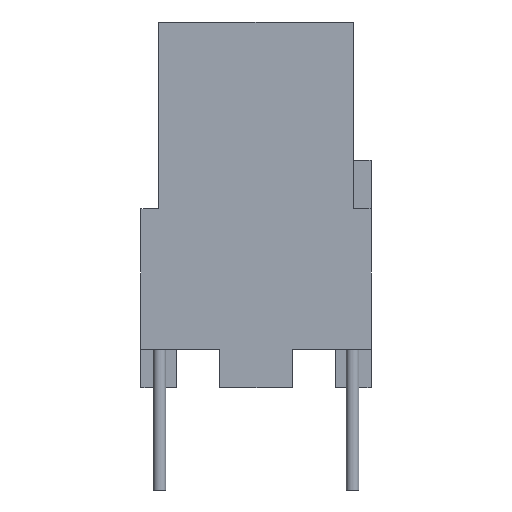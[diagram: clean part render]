
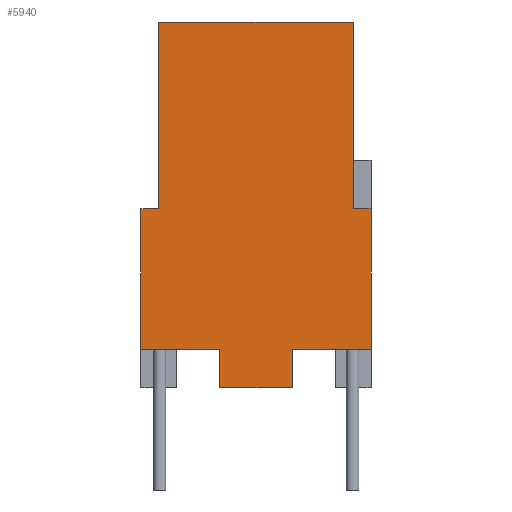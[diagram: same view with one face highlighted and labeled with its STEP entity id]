
A CAD part, front view. The second image highlights one B-rep face of the part: STEP entity #5940.
In plain terms, the highlighted planar face has unit normal (0, -1, 0).
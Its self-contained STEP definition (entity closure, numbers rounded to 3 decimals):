
#4721=CARTESIAN_POINT('',(3.8,-7.,14.3));
#4722=VERTEX_POINT('',#4721);
#4739=CARTESIAN_POINT('',(-3.8,-7.,14.3));
#4740=VERTEX_POINT('',#4739);
#4747=CARTESIAN_POINT('',(-3.8,-7.,14.3));
#4748=DIRECTION('',(1.0,0.0,0.0));
#4749=VECTOR('',#4748,7.6);
#4750=LINE('',#4747,#4749);
#4751=EDGE_CURVE('',#4740,#4722,#4750,.T.);
#5187=CARTESIAN_POINT('',(-4.5,-7.,1.5));
#5188=VERTEX_POINT('',#5187);
#5195=CARTESIAN_POINT('',(-4.5,-7.,7.));
#5196=VERTEX_POINT('',#5195);
#5197=CARTESIAN_POINT('',(-4.5,-7.,1.5));
#5198=DIRECTION('',(0.0,0.0,1.0));
#5199=VECTOR('',#5198,5.5);
#5200=LINE('',#5197,#5199);
#5201=EDGE_CURVE('',#5188,#5196,#5200,.T.);
#5276=CARTESIAN_POINT('',(4.5,-7.,1.5));
#5277=VERTEX_POINT('',#5276);
#5284=CARTESIAN_POINT('',(1.425,-7.,1.5));
#5285=VERTEX_POINT('',#5284);
#5286=CARTESIAN_POINT('',(1.425,-7.,1.5));
#5287=DIRECTION('',(1.0,0.0,0.0));
#5288=VECTOR('',#5287,3.075);
#5289=LINE('',#5286,#5288);
#5290=EDGE_CURVE('',#5285,#5277,#5289,.T.);
#5420=CARTESIAN_POINT('',(-1.425,-7.,1.5));
#5421=VERTEX_POINT('',#5420);
#5428=CARTESIAN_POINT('',(-4.5,-7.,1.5));
#5429=DIRECTION('',(1.0,0.0,0.0));
#5430=VECTOR('',#5429,3.075);
#5431=LINE('',#5428,#5430);
#5432=EDGE_CURVE('',#5188,#5421,#5431,.T.);
#5753=CARTESIAN_POINT('',(4.5,-7.,7.));
#5754=VERTEX_POINT('',#5753);
#5761=CARTESIAN_POINT('',(4.5,-7.,1.5));
#5762=DIRECTION('',(0.0,0.0,1.0));
#5763=VECTOR('',#5762,5.5);
#5764=LINE('',#5761,#5763);
#5765=EDGE_CURVE('',#5277,#5754,#5764,.T.);
#5838=CARTESIAN_POINT('',(-1.425,-7.,0.0));
#5839=VERTEX_POINT('',#5838);
#5846=CARTESIAN_POINT('',(-1.425,-7.,1.5));
#5847=DIRECTION('',(0.0,0.0,-1.0));
#5848=VECTOR('',#5847,1.5);
#5849=LINE('',#5846,#5848);
#5850=EDGE_CURVE('',#5421,#5839,#5849,.T.);
#5863=CARTESIAN_POINT('',(1.425,-7.,0.));
#5864=VERTEX_POINT('',#5863);
#5865=CARTESIAN_POINT('',(1.425,-7.,0.));
#5866=DIRECTION('',(0.0,0.0,1.0));
#5867=VECTOR('',#5866,1.5);
#5868=LINE('',#5865,#5867);
#5869=EDGE_CURVE('',#5864,#5285,#5868,.T.);
#5887=CARTESIAN_POINT('',(1.425,-7.,0.0));
#5888=DIRECTION('',(-1.0,0.0,0.0));
#5889=VECTOR('',#5888,2.85);
#5890=LINE('',#5887,#5889);
#5891=EDGE_CURVE('',#5864,#5839,#5890,.T.);
#5897=CARTESIAN_POINT('',(-4.5,-7.,0.0));
#5898=DIRECTION('',(0.0,-1.0,0.0));
#5899=DIRECTION('',(1.0,0.0,0.0));
#5900=AXIS2_PLACEMENT_3D('',#5897,#5898,#5899);
#5901=PLANE('',#5900);
#5902=ORIENTED_EDGE('',*,*,#5290,.T.);
#5903=ORIENTED_EDGE('',*,*,#5765,.T.);
#5904=CARTESIAN_POINT('',(3.8,-7.,7.));
#5905=VERTEX_POINT('',#5904);
#5906=CARTESIAN_POINT('',(4.5,-7.,7.));
#5907=DIRECTION('',(-1.0,0.0,0.0));
#5908=VECTOR('',#5907,0.7);
#5909=LINE('',#5906,#5908);
#5910=EDGE_CURVE('',#5754,#5905,#5909,.T.);
#5911=ORIENTED_EDGE('',*,*,#5910,.T.);
#5912=CARTESIAN_POINT('',(3.8,-7.,7.0));
#5913=DIRECTION('',(0.0,0.0,1.0));
#5914=VECTOR('',#5913,7.3);
#5915=LINE('',#5912,#5914);
#5916=EDGE_CURVE('',#5905,#4722,#5915,.T.);
#5917=ORIENTED_EDGE('',*,*,#5916,.T.);
#5918=ORIENTED_EDGE('',*,*,#4751,.F.);
#5919=CARTESIAN_POINT('',(-3.8,-7.,7.));
#5920=VERTEX_POINT('',#5919);
#5921=CARTESIAN_POINT('',(-3.8,-7.,14.3));
#5922=DIRECTION('',(0.0,0.0,-1.0));
#5923=VECTOR('',#5922,7.3);
#5924=LINE('',#5921,#5923);
#5925=EDGE_CURVE('',#4740,#5920,#5924,.T.);
#5926=ORIENTED_EDGE('',*,*,#5925,.T.);
#5927=CARTESIAN_POINT('',(-3.8,-7.,7.));
#5928=DIRECTION('',(-1.0,0.0,0.0));
#5929=VECTOR('',#5928,0.7);
#5930=LINE('',#5927,#5929);
#5931=EDGE_CURVE('',#5920,#5196,#5930,.T.);
#5932=ORIENTED_EDGE('',*,*,#5931,.T.);
#5933=ORIENTED_EDGE('',*,*,#5201,.F.);
#5934=ORIENTED_EDGE('',*,*,#5432,.T.);
#5935=ORIENTED_EDGE('',*,*,#5850,.T.);
#5936=ORIENTED_EDGE('',*,*,#5891,.F.);
#5937=ORIENTED_EDGE('',*,*,#5869,.T.);
#5938=EDGE_LOOP('',(#5902,#5903,#5911,#5917,#5918,#5926,#5932,#5933,#5934,#5935,#5936,#5937));
#5939=FACE_OUTER_BOUND('',#5938,.T.);
#5940=ADVANCED_FACE('',(#5939),#5901,.T.);
